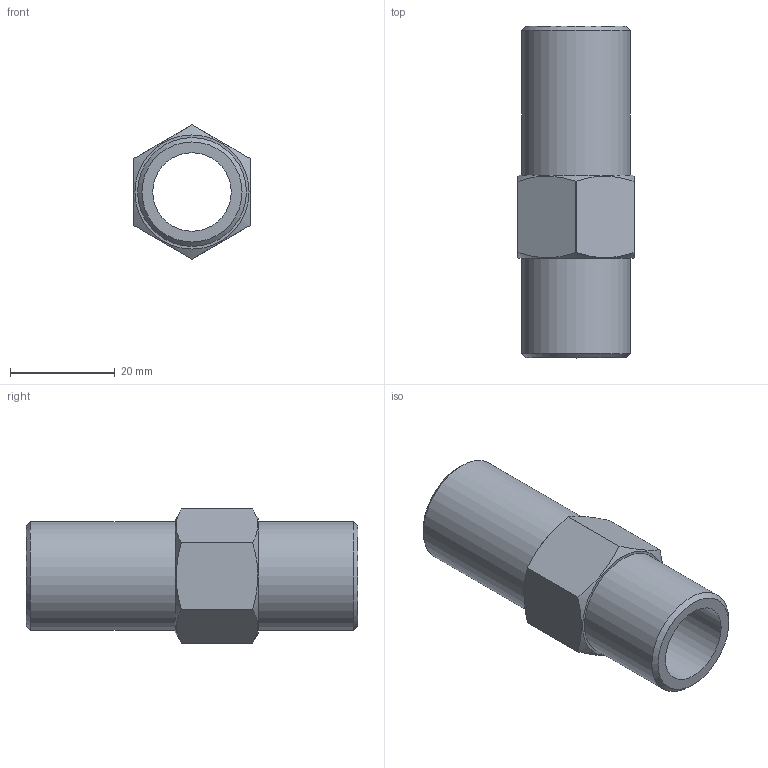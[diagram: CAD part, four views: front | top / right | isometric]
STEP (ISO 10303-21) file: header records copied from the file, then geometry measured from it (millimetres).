
FILE_DESCRIPTION(/* description */ (''),/* implementation_level */ '2;1');
FILE_NAME(/* name */ 'C:/Users/drich/Desktop/APN12-2-1_2 v1.step',/* time_stamp */ '2019-12-27T17:41:19-06:00',/* author */ (''),/* organization */ (''),/* preprocessor_version */ 'ST-DEVELOPER v18',/* originating_system */ 'Autodesk Translation Framework v8.12.0.6',/* authorisation */ '');
FILE_SCHEMA (('AUTOMOTIVE_DESIGN { 1 0 10303 214 3 1 1 }'));
Length unit declared in the file: inch
Products named in the file (1): APN12-2-1_2
Bounding box: 22.23 x 63.5 x 25.65 mm (x, y, z)
Volume: 11637 mm3; surface area: 7715.2 mm2
Topology: 1 solids, 1 shells, 23 faces, 59 edges, 40 vertices
Faces by surface type: plane 10, cylinder 9, cone 4
Full cylindrical faces by diameter (mm): 15.037 x1, 20.813 x2
Entity records: 751 total; most frequent: CARTESIAN_POINT 147, DIRECTION 123, ORIENTED_EDGE 118, EDGE_CURVE 59, AXIS2_PLACEMENT_3D 52, VERTEX_POINT 40, CIRCLE 28, EDGE_LOOP 27
